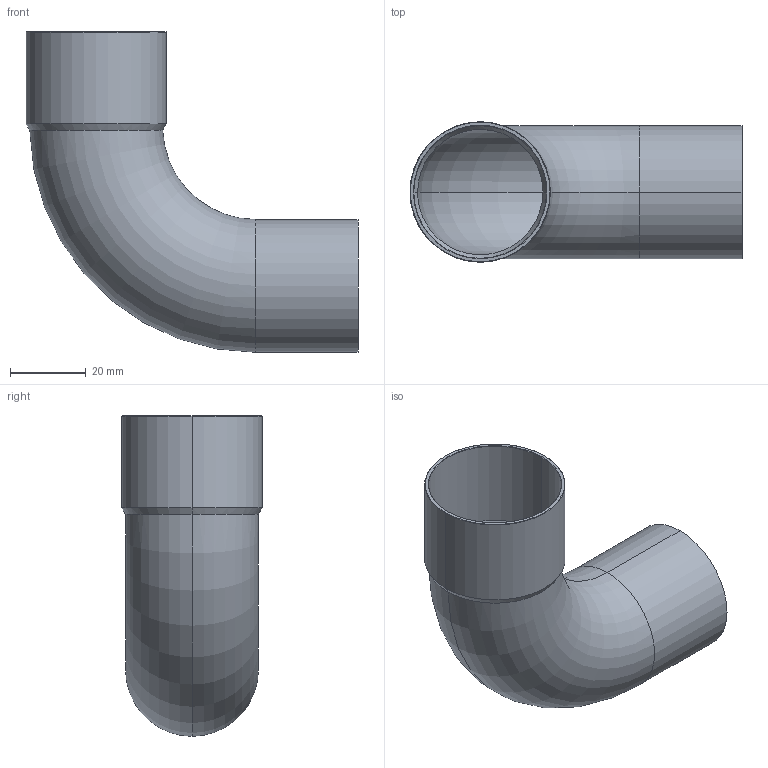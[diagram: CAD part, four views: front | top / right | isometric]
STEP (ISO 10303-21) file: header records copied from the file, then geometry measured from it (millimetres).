
FILE_DESCRIPTION((''),'2;1');
FILE_NAME('P:\Bouwmaten\z-maattekeningen 3D\5000\5001a\15001a35.stp','2005-10-04T14:42:44',('Kris'),(''),'Autodesk Inventor 8','Autodesk Inventor 8','');
FILE_SCHEMA(('AUTOMOTIVE_DESIGN { 1 0 10303 214 1 1 1 1 }'));
Length unit declared in the file: millimetre
Products named in the file (1): 15001a35
Bounding box: 87.5 x 37 x 84.5 mm (x, y, z)
Volume: 12786.6 mm3; surface area: 25782.1 mm2
Topology: 1 solids, 1 shells, 22 faces, 46 edges, 26 vertices
Faces by surface type: cone 8, cylinder 8, torus 4, plane 2
Entity records: 679 total; most frequent: CARTESIAN_POINT 171, DIRECTION 114, ORIENTED_EDGE 92, AXIS2_PLACEMENT_3D 49, EDGE_CURVE 46, VERTEX_POINT 26, CIRCLE 26, EDGE_LOOP 24
